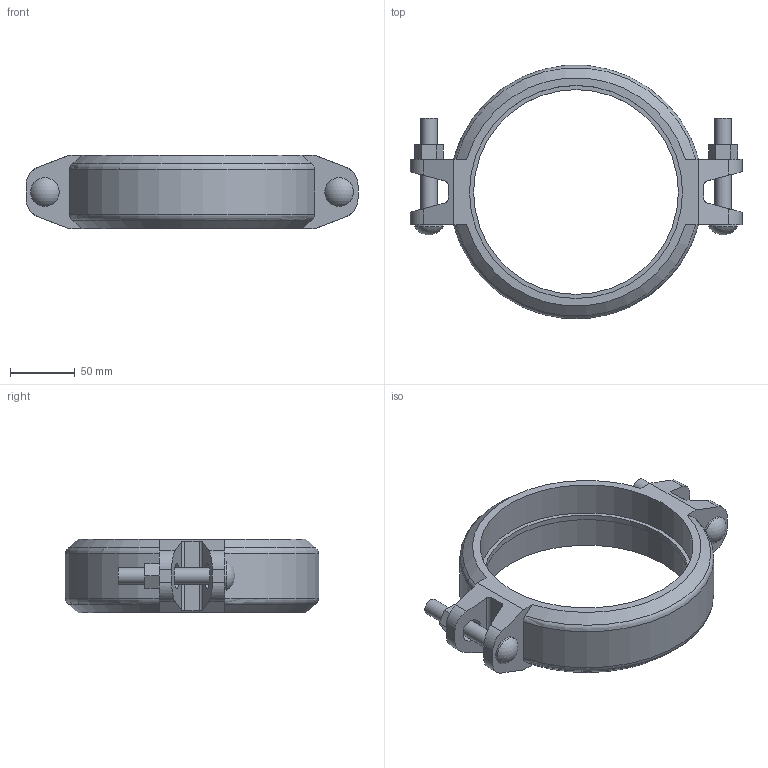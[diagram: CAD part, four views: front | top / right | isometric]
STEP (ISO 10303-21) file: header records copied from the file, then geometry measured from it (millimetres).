
FILE_DESCRIPTION(/* description */ ('VICTAULIC STYLE 009N FIRELOCK EZ RIGID COUPLING','CAx-IF Rec.Pracs.---Representation and Presentation of Product Manufacturing Information (PMI)---4.0---2014-10-13'),/* implementation_level */ '2;1');
FILE_NAME(/* name */ 'C:\Users\Vjadhav\AppData\Roaming\Autodesk\ApplicationPlugins\Victaulic.Temp\A361\Victaulic_FP-FireLock_Coupling Rigid_IR_Style 009N (OGS)_06.0 (165.1) (150).stp',/* time_stamp */ '2022-03-23T18:55:33+05:00',/* author */ ('Vjadhav'),/* organization */ ('Victaulic'),/* preprocessor_version */ 'ST-DEVELOPER v17.2',/* originating_system */ 'Autodesk Inventor 2019',/* authorisation */ '');
FILE_SCHEMA (('AP242_MANAGED_MODEL_BASED_3D_ENGINEERING_MIM_LF { 1 0 10303 442 1 1 4 }'));
Length unit declared in the file: inch
Products named in the file (2): 009N-06.0 (165.1); 009N-06.0 (165.1)_1
Assembly tree (1 placements, depth 2):
  009N-06.0 (165.1)
    009N-06.0 (165.1)_1
Bounding box: 257.3 x 196.1 x 57.15 mm (x, y, z)
Volume: 574523.8 mm3; surface area: 101919.2 mm2
Topology: 1 solids, 1 shells, 91 faces, 251 edges, 170 vertices
Faces by surface type: plane 50, cylinder 31, cone 4, torus 4, sphere 2
Full cylindrical faces by diameter (mm): 12.7 x4, 22.225 x2, 158.75 x1, 165.1 x2
Entity records: 3195 total; most frequent: CARTESIAN_POINT 619, DIRECTION 509, ORIENTED_EDGE 502, EDGE_CURVE 251, AXIS2_PLACEMENT_3D 180, VERTEX_POINT 170, LINE 149, VECTOR 149
